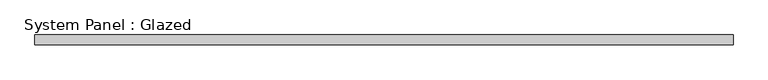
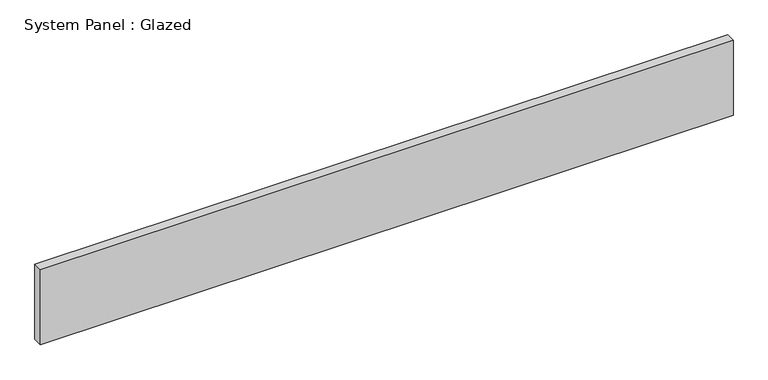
"""IFC4 building model written with IfcOpenShell, lengths in millimetres: plate geometry, System Panel : Glazed."""

import ifcopenshell
import ifcopenshell.guid

model = None  # the IFC model being written
_history = None  # IfcOwnerHistory: only IFC2X3 demands one
_inside = {}  # id of a spatial element -> (the spatial element, [elements in it])
_under = {}  # id of a project, library or spatial element -> (it, [spatial elements below it])
_declared = {}  # id of a project -> (the project, [libraries it declares])
_typed = {}  # id of a type object -> (the type object, [elements of that type])
_made_of = {}  # id of a material, layer set ... -> (it, [elements and type objects made of it])


def new_model(schema):
    """Start an empty IFC model of exactly this schema.

    Asked for "IFC4X3", IfcOpenShell would pick the latest addendum, in which some entities
    have other attributes; the version numbers below select the first issue.
    IFC2X3 requires an IfcOwnerHistory on every rooted entity: one is made here for all.
    """
    global model, _history
    if schema == "IFC4X3":
        model = ifcopenshell.file(schema_version=(4, 3, 0, 0))
    else:
        model = ifcopenshell.file(schema=schema)
    _inside.clear()
    _under.clear()
    _declared.clear()
    _typed.clear()
    _made_of.clear()
    _history = None
    if model.schema == "IFC2X3":
        org = make("IfcOrganization", Name="unknown")
        user = make(
            "IfcPersonAndOrganization",
            ThePerson=make("IfcPerson", FamilyName="unknown"),
            TheOrganization=org,
        )
        app = make(
            "IfcApplication",
            ApplicationDeveloper=org,
            Version="unknown",
            ApplicationFullName="unknown",
            ApplicationIdentifier="unknown",
        )
        _history = make(
            "IfcOwnerHistory",
            OwningUser=user,
            OwningApplication=app,
            ChangeAction="ADDED",
            CreationDate=0,
        )
    return model


def make(cls, **values):
    """One entity of the class cls with the attributes given. An attribute that is None is left unset."""
    return model.create_entity(
        cls, **{name: value for name, value in values.items() if value is not None}
    )


def rooted(cls, **values):
    """An entity with a GlobalId (a new one), such as an element, a storey or a relation."""
    return make(cls, GlobalId=ifcopenshell.guid.new(), OwnerHistory=_history, **values)


def si_unit(unit_type, name, prefix=None):
    """IfcSIUnit, for example si_unit("LENGTHUNIT", "METRE", prefix="MILLI")."""
    return make("IfcSIUnit", UnitType=unit_type, Prefix=prefix, Name=name)


def assignment(units):
    """IfcUnitAssignment: the units of a project."""
    return None if units is None else make("IfcUnitAssignment", Units=units)


def point(xyz):
    """IfcCartesianPoint."""
    return None if xyz is None else make("IfcCartesianPoint", Coordinates=xyz)


def direction(xyz):
    """IfcDirection."""
    return None if xyz is None else make("IfcDirection", DirectionRatios=xyz)


def frame(location, z_axis=None, x_axis=None):
    """IfcAxis2Placement3D, a coordinate frame: its origin and axes. An axis left out is left unset."""
    return make(
        "IfcAxis2Placement3D",
        Location=point(location),
        Axis=direction(z_axis),
        RefDirection=direction(x_axis),
    )


def origin():
    """The frame at (0, 0, 0) with its axes left unset."""
    return frame((0.0, 0.0, 0.0))


def origin_with_axes():
    """The frame at (0, 0, 0) with the z axis (0, 0, 1) and the x axis (1, 0, 0) written out."""
    return frame((0.0, 0.0, 0.0), z_axis=(0.0, 0.0, 1.0), x_axis=(1.0, 0.0, 0.0))


def place(relative_to, where):
    """IfcLocalPlacement: puts the frame where relative to a parent placement (None: the world)."""
    return make(
        "IfcLocalPlacement", PlacementRelTo=relative_to, RelativePlacement=where
    )


def context(
    kind, dimensions, precision=None, world=None, true_north=None, identifier=None
):
    """IfcGeometricRepresentationContext, for example the 3D "Model" context."""
    return make(
        "IfcGeometricRepresentationContext",
        ContextIdentifier=identifier,
        ContextType=kind,
        CoordinateSpaceDimension=dimensions,
        Precision=precision,
        WorldCoordinateSystem=world,
        TrueNorth=true_north,
    )


def project(units=None, contexts=None):
    """IfcProject with its units and contexts."""
    return rooted(
        "IfcProject",
        Name="project",
        RepresentationContexts=contexts,
        UnitsInContext=assignment(units),
    )


def spatial(cls, under=None, at=None, **own):
    """A site, building, storey or space (cls), placed at a placement, below another one or the project."""
    s = rooted(cls, ObjectPlacement=at, **own)
    if under is not None:
        _under.setdefault(under.id(), (under, []))[1].append(s)
    return s


def polyline(points):
    """IfcPolyline through the points."""
    return make("IfcPolyline", Points=[point(p) for p in points])


def outline(outer, holes=None, kind="AREA"):
    """IfcArbitraryClosedProfileDef: a profile drawn as a closed curve; with holes, ...WithVoids."""
    if holes is None:
        return make("IfcArbitraryClosedProfileDef", ProfileType=kind, OuterCurve=outer)
    return make(
        "IfcArbitraryProfileDefWithVoids",
        ProfileType=kind,
        OuterCurve=outer,
        InnerCurves=holes,
    )


def extrude(swept, where, along, depth):
    """IfcExtrudedAreaSolid: the profile swept, set in the frame where, extruded along a direction by depth."""
    return make(
        "IfcExtrudedAreaSolid",
        SweptArea=swept,
        Position=where,
        ExtrudedDirection=direction(along),
        Depth=depth,
    )


def shape(context_of_items, identifier, shape_type, items):
    """IfcShapeRepresentation: the items that make up one representation, for example the "Body"."""
    return make(
        "IfcShapeRepresentation",
        ContextOfItems=context_of_items,
        RepresentationIdentifier=identifier,
        RepresentationType=shape_type,
        Items=items,
    )


def source(mapping_origin, context_of_items, identifier, shape_type, items):
    """IfcRepresentationMap: a shape defined once, which mapped items show again and again."""
    return make(
        "IfcRepresentationMap",
        MappingOrigin=mapping_origin,
        MappedRepresentation=shape(context_of_items, identifier, shape_type, items),
    )


def transform(
    local_origin,
    x_axis=None,
    y_axis=None,
    z_axis=None,
    scale=None,
    scale2=None,
    scale3=None,
    uniform=True,
):
    """IfcCartesianTransformationOperator3D, or its non-uniform kind. x_axis, y_axis, z_axis: its Axis1, 2, 3."""
    if uniform:
        return make(
            "IfcCartesianTransformationOperator3D",
            Axis1=direction(x_axis),
            Axis2=direction(y_axis),
            LocalOrigin=point(local_origin),
            Scale=scale,
            Axis3=direction(z_axis),
        )
    return make(
        "IfcCartesianTransformationOperator3DnonUniform",
        Axis1=direction(x_axis),
        Axis2=direction(y_axis),
        LocalOrigin=point(local_origin),
        Scale=scale,
        Axis3=direction(z_axis),
        Scale2=scale2,
        Scale3=scale3,
    )


def mapped(mapping_source, mapping_target):
    """IfcMappedItem: shows the shape of a source again, moved by a transform."""
    return make(
        "IfcMappedItem", MappingSource=mapping_source, MappingTarget=mapping_target
    )


def made_of(thing, what):
    """Note that an element or type object is made of a material, layer set ...; save() writes the relation."""
    if what is not None:
        _made_of.setdefault(what.id(), (what, []))[1].append(thing)
    return thing


def element(
    cls,
    number,
    at=None,
    inside=None,
    cuts=None,
    type_object=None,
    material=None,
    context=None,
    identifier="Body",
    shape_type=None,
    held_by="IfcProductDefinitionShape",
    body=None,
    shapes=None,
    **own,
):
    """One element of the class cls, such as IfcWall. Its Tag is "e" and its number.

    at: its placement. inside: the storey or other place that contains it. cuts: it is an
    opening in that element (IfcRelVoidsElement). A single representation is given by context,
    identifier, shape_type and body (its items); several are given by shapes. held_by: the class
    of the entity that holds the representations. save() writes the other relations.
    """
    e = rooted(cls, Tag="e%d" % number, ObjectPlacement=at, **own)
    if body is not None:
        shapes = [shape(context, identifier, shape_type, body)]
    if shapes is not None:
        e.Representation = make(held_by, Representations=shapes)
    if inside is not None:
        _inside.setdefault(inside.id(), (inside, []))[1].append(e)
    if cuts is not None:
        rooted(
            "IfcRelVoidsElement", RelatingBuildingElement=cuts, RelatedOpeningElement=e
        )
    if type_object is not None:
        _typed.setdefault(type_object.id(), (type_object, []))[1].append(e)
    return made_of(e, material)


def aggregate(whole, parts):
    """IfcRelAggregates: a whole, such as a stair, and the parts it consists of."""
    return rooted("IfcRelAggregates", RelatingObject=whole, RelatedObjects=parts)


def save(model, path):
    """Write the relations noted so far, then the file.

    IfcRelAggregates (storeys below a building ...), IfcRelContainedInSpatialStructure (elements
    in a storey), IfcRelDefinesByType, IfcRelAssociatesMaterial and IfcRelDeclares: one each for
    every whole, place, type object, material and project.
    """
    for whole, parts in _under.values():
        aggregate(whole, parts)
    for where, things in _inside.values():
        rooted(
            "IfcRelContainedInSpatialStructure",
            RelatedElements=things,
            RelatingStructure=where,
        )
    for kind, things in _typed.values():
        rooted("IfcRelDefinesByType", RelatedObjects=things, RelatingType=kind)
    for what, things in _made_of.values():
        rooted("IfcRelAssociatesMaterial", RelatedObjects=things, RelatingMaterial=what)
    for by, libraries in _declared.values():
        rooted("IfcRelDeclares", RelatingContext=by, RelatedDefinitions=libraries)
    model.write(path)


def system_panel_glazed_ea9774ea(model_context):
    return source(origin(), model_context, "Body", "SweptSolid", [
        extrude(outline(polyline([(914.4, -44.45), (-914.4, -44.45), (-914.4, -19.05), (914.4, -19.05), (914.4, -44.45)])), origin_with_axes(), (0.0, 0.0, 1.0), 209.55),
    ])


if __name__ == "__main__":
    model = new_model("IFC4")
    model_context = context("Model", 3, world=origin())
    ifc_project = project(units=[si_unit("LENGTHUNIT", "METRE", prefix="MILLI")], contexts=[model_context])
    site = spatial("IfcSite", under=ifc_project)
    building = spatial("IfcBuilding", under=site)
    placement = place(None, origin())
    system_panel_glazed_shape = system_panel_glazed_ea9774ea(model_context)
    element("IfcPlate", 1, ObjectType="System Panel : Glazed", at=placement, inside=building, context=model_context, shape_type="MappedRepresentation", body=[
        mapped(system_panel_glazed_shape, transform((0.0, 0.0, 0.0), x_axis=(1.0, 0.0, 0.0), y_axis=(0.0, 1.0, 0.0), z_axis=(0.0, 0.0, 1.0))),
    ])
    save(model, "model.ifc")
